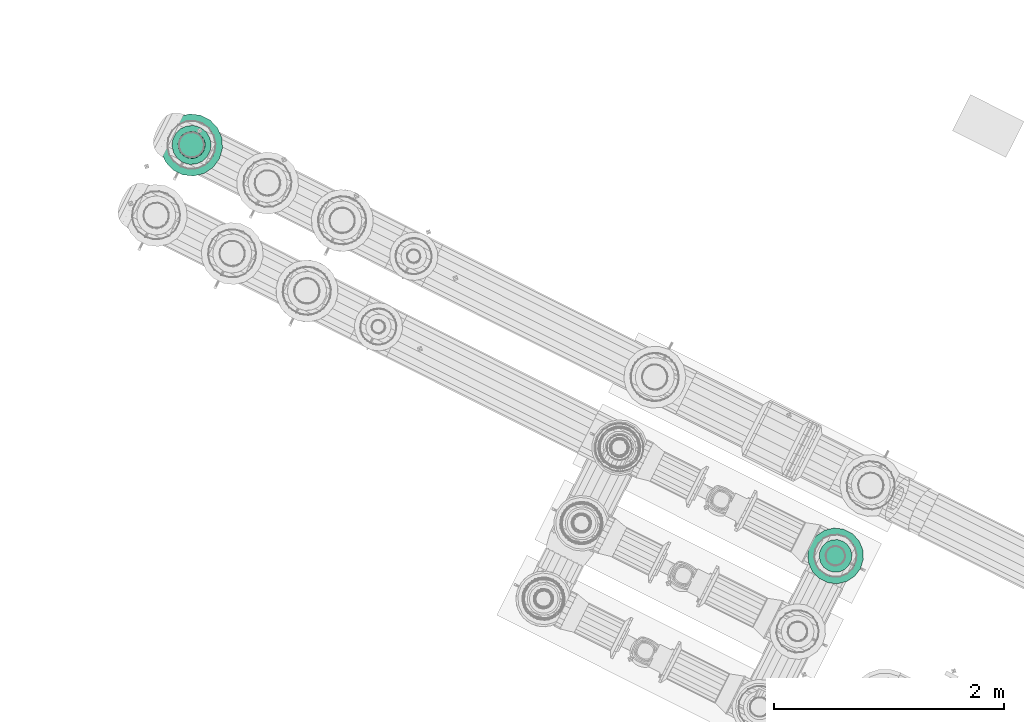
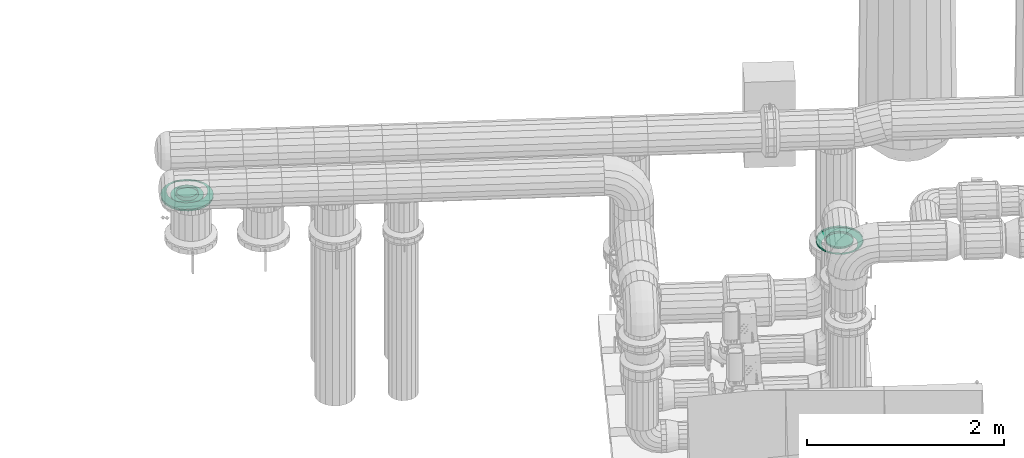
# One storey, part 132 of 152: 2 flow fittings.
"""IFC2X3 building model written with IfcOpenShell, lengths in metres."""

import ifcopenshell
import ifcopenshell.guid

model = None  # the IFC model being written
_history = None  # IfcOwnerHistory: only IFC2X3 demands one
_inside = {}  # id of a spatial element -> (the spatial element, [elements in it])
_under = {}  # id of a project, library or spatial element -> (it, [spatial elements below it])
_declared = {}  # id of a project -> (the project, [libraries it declares])
_typed = {}  # id of a type object -> (the type object, [elements of that type])
_made_of = {}  # id of a material, layer set ... -> (it, [elements and type objects made of it])


def new_model(schema):
    """Start an empty IFC model of exactly this schema.

    Asked for "IFC4X3", IfcOpenShell would pick the latest addendum, in which some entities
    have other attributes; the version numbers below select the first issue.
    IFC2X3 requires an IfcOwnerHistory on every rooted entity: one is made here for all.
    """
    global model, _history
    if schema == "IFC4X3":
        model = ifcopenshell.file(schema_version=(4, 3, 0, 0))
    else:
        model = ifcopenshell.file(schema=schema)
    _inside.clear()
    _under.clear()
    _declared.clear()
    _typed.clear()
    _made_of.clear()
    _history = None
    if model.schema == "IFC2X3":
        org = make("IfcOrganization", Name="unknown")
        user = make(
            "IfcPersonAndOrganization",
            ThePerson=make("IfcPerson", FamilyName="unknown"),
            TheOrganization=org,
        )
        app = make(
            "IfcApplication",
            ApplicationDeveloper=org,
            Version="unknown",
            ApplicationFullName="unknown",
            ApplicationIdentifier="unknown",
        )
        _history = make(
            "IfcOwnerHistory",
            OwningUser=user,
            OwningApplication=app,
            ChangeAction="ADDED",
            CreationDate=0,
        )
    return model


def make(cls, **values):
    """One entity of the class cls with the attributes given. An attribute that is None is left unset."""
    return model.create_entity(
        cls, **{name: value for name, value in values.items() if value is not None}
    )


def rooted(cls, **values):
    """An entity with a GlobalId (a new one), such as an element, a storey or a relation."""
    return make(cls, GlobalId=ifcopenshell.guid.new(), OwnerHistory=_history, **values)


def si_unit(unit_type, name, prefix=None):
    """IfcSIUnit, for example si_unit("LENGTHUNIT", "METRE", prefix="MILLI")."""
    return make("IfcSIUnit", UnitType=unit_type, Prefix=prefix, Name=name)


def derived_unit(unit_type, elements):
    """IfcDerivedUnit: a product of units, each with its exponent."""
    return make(
        "IfcDerivedUnit",
        Elements=[
            make("IfcDerivedUnitElement", Unit=unit, Exponent=power)
            for unit, power in elements
        ],
        UnitType=unit_type,
    )


def assignment(units):
    """IfcUnitAssignment: the units of a project."""
    return None if units is None else make("IfcUnitAssignment", Units=units)


def point(xyz):
    """IfcCartesianPoint."""
    return None if xyz is None else make("IfcCartesianPoint", Coordinates=xyz)


def direction(xyz):
    """IfcDirection."""
    return None if xyz is None else make("IfcDirection", DirectionRatios=xyz)


def frame(location, z_axis=None, x_axis=None):
    """IfcAxis2Placement3D, a coordinate frame: its origin and axes. An axis left out is left unset."""
    return make(
        "IfcAxis2Placement3D",
        Location=point(location),
        Axis=direction(z_axis),
        RefDirection=direction(x_axis),
    )


def origin():
    """The frame at (0, 0, 0) with its axes left unset."""
    return frame((0.0, 0.0, 0.0))


def place(relative_to, where):
    """IfcLocalPlacement: puts the frame where relative to a parent placement (None: the world)."""
    return make(
        "IfcLocalPlacement", PlacementRelTo=relative_to, RelativePlacement=where
    )


def context(
    kind, dimensions, precision=None, world=None, true_north=None, identifier=None
):
    """IfcGeometricRepresentationContext, for example the 3D "Model" context."""
    return make(
        "IfcGeometricRepresentationContext",
        ContextIdentifier=identifier,
        ContextType=kind,
        CoordinateSpaceDimension=dimensions,
        Precision=precision,
        WorldCoordinateSystem=world,
        TrueNorth=true_north,
    )


def subcontext(parent, identifier, kind, view, scale=None):
    """IfcGeometricRepresentationSubContext, for example "Body" below "Model"."""
    return make(
        "IfcGeometricRepresentationSubContext",
        ContextIdentifier=identifier,
        ContextType=kind,
        ParentContext=parent,
        TargetScale=scale,
        TargetView=view,
    )


def project(units=None, contexts=None):
    """IfcProject with its units and contexts."""
    return rooted(
        "IfcProject",
        Name="project",
        RepresentationContexts=contexts,
        UnitsInContext=assignment(units),
    )


def spatial(cls, under=None, at=None, **own):
    """A site, building, storey or space (cls), placed at a placement, below another one or the project."""
    s = rooted(cls, ObjectPlacement=at, **own)
    if under is not None:
        _under.setdefault(under.id(), (under, []))[1].append(s)
    return s


def faces_of(points, faces, orient=None, outer=None):
    """IfcFace entities. A face is a list of loops; a loop is a list of indices into points, from 0.

    orient and outer hold one flag for each loop. By default every Orientation is true, the
    first loop of a face is its IfcFaceOuterBound and the others are IfcFaceBound.
    """
    made = []
    for i, loops in enumerate(faces):
        bounds = []
        for j, loop in enumerate(loops):
            is_outer = j == 0 if outer is None else outer[i][j]
            bounds.append(
                make(
                    "IfcFaceOuterBound" if is_outer else "IfcFaceBound",
                    Bound=make("IfcPolyLoop", Polygon=[points[k] for k in loop]),
                    Orientation=True if orient is None else orient[i][j],
                )
            )
        made.append(make("IfcFace", Bounds=bounds))
    return made


def face_set(faces, orient=None, outer=None):
    """The faces of one IfcConnectedFaceSet. surface_model builds it on its shared points."""
    return ("IfcConnectedFaceSet", faces, orient, outer)


def surface_model(cls, points, shells):
    """IfcFaceBasedSurfaceModel or IfcShellBasedSurfaceModel (cls): surfaces that need not close."""
    shared = [point(p) for p in points]
    made = [make(c, CfsFaces=faces_of(shared, fs, o, b)) for c, fs, o, b in shells]
    if cls == "IfcFaceBasedSurfaceModel":
        return make(cls, FbsmFaces=made)
    return make(cls, SbsmBoundary=made)


def shape(context_of_items, identifier, shape_type, items):
    """IfcShapeRepresentation: the items that make up one representation, for example the "Body"."""
    return make(
        "IfcShapeRepresentation",
        ContextOfItems=context_of_items,
        RepresentationIdentifier=identifier,
        RepresentationType=shape_type,
        Items=items,
    )


def source(mapping_origin, context_of_items, identifier, shape_type, items):
    """IfcRepresentationMap: a shape defined once, which mapped items show again and again."""
    return make(
        "IfcRepresentationMap",
        MappingOrigin=mapping_origin,
        MappedRepresentation=shape(context_of_items, identifier, shape_type, items),
    )


def transform(
    local_origin,
    x_axis=None,
    y_axis=None,
    z_axis=None,
    scale=None,
    scale2=None,
    scale3=None,
    uniform=True,
):
    """IfcCartesianTransformationOperator3D, or its non-uniform kind. x_axis, y_axis, z_axis: its Axis1, 2, 3."""
    if uniform:
        return make(
            "IfcCartesianTransformationOperator3D",
            Axis1=direction(x_axis),
            Axis2=direction(y_axis),
            LocalOrigin=point(local_origin),
            Scale=scale,
            Axis3=direction(z_axis),
        )
    return make(
        "IfcCartesianTransformationOperator3DnonUniform",
        Axis1=direction(x_axis),
        Axis2=direction(y_axis),
        LocalOrigin=point(local_origin),
        Scale=scale,
        Axis3=direction(z_axis),
        Scale2=scale2,
        Scale3=scale3,
    )


def mapped(mapping_source, mapping_target):
    """IfcMappedItem: shows the shape of a source again, moved by a transform."""
    return make(
        "IfcMappedItem", MappingSource=mapping_source, MappingTarget=mapping_target
    )


def material(Name=None, Category=None):
    """IfcMaterial."""
    return make("IfcMaterial", Name=Name, Category=Category)


def made_of(thing, what):
    """Note that an element or type object is made of a material, layer set ...; save() writes the relation."""
    if what is not None:
        _made_of.setdefault(what.id(), (what, []))[1].append(thing)
    return thing


def type_object(cls, material=None, **own):
    """A type object (cls), such as IfcWallType, which elements share."""
    return made_of(rooted(cls, **own), material)


def type_shapes(of_type, sources):
    """Give a type object the sources (RepresentationMaps) that its elements show as mapped items."""
    of_type.RepresentationMaps = sources


def element(
    cls,
    number,
    at=None,
    inside=None,
    cuts=None,
    type_object=None,
    material=None,
    context=None,
    identifier="Body",
    shape_type=None,
    held_by="IfcProductDefinitionShape",
    body=None,
    shapes=None,
    **own,
):
    """One element of the class cls, such as IfcWall. Its Tag is "e" and its number.

    at: its placement. inside: the storey or other place that contains it. cuts: it is an
    opening in that element (IfcRelVoidsElement). A single representation is given by context,
    identifier, shape_type and body (its items); several are given by shapes. held_by: the class
    of the entity that holds the representations. save() writes the other relations.
    """
    e = rooted(cls, Tag="e%d" % number, ObjectPlacement=at, **own)
    if body is not None:
        shapes = [shape(context, identifier, shape_type, body)]
    if shapes is not None:
        e.Representation = make(held_by, Representations=shapes)
    if inside is not None:
        _inside.setdefault(inside.id(), (inside, []))[1].append(e)
    if cuts is not None:
        rooted(
            "IfcRelVoidsElement", RelatingBuildingElement=cuts, RelatedOpeningElement=e
        )
    if type_object is not None:
        _typed.setdefault(type_object.id(), (type_object, []))[1].append(e)
    return made_of(e, material)


def aggregate(whole, parts):
    """IfcRelAggregates: a whole, such as a stair, and the parts it consists of."""
    return rooted("IfcRelAggregates", RelatingObject=whole, RelatedObjects=parts)


def save(model, path):
    """Write the relations noted so far, then the file.

    IfcRelAggregates (storeys below a building ...), IfcRelContainedInSpatialStructure (elements
    in a storey), IfcRelDefinesByType, IfcRelAssociatesMaterial and IfcRelDeclares: one each for
    every whole, place, type object, material and project.
    """
    for whole, parts in _under.values():
        aggregate(whole, parts)
    for where, things in _inside.values():
        rooted(
            "IfcRelContainedInSpatialStructure",
            RelatedElements=things,
            RelatingStructure=where,
        )
    for kind, things in _typed.values():
        rooted("IfcRelDefinesByType", RelatedObjects=things, RelatingType=kind)
    for what, things in _made_of.values():
        rooted("IfcRelAssociatesMaterial", RelatedObjects=things, RelatingMaterial=what)
    for by, libraries in _declared.values():
        rooted("IfcRelDeclares", RelatingContext=by, RelatedDefinitions=libraries)
    model.write(path)


model = new_model("IFC2X3")

# Units and contexts
model_context = context("Model", 3, precision=5.2338327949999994e-05, world=origin(), true_north=direction((0.0, 1.0)))
body_context = subcontext(model_context, "Body", "Model", "MODEL_VIEW")
ifc_project = project(units=[si_unit("LENGTHUNIT", "METRE"), si_unit("AREAUNIT", "SQUARE_METRE"), si_unit("VOLUMEUNIT", "CUBIC_METRE"), si_unit("MASSUNIT", "GRAM", prefix="KILO"), si_unit("PLANEANGLEUNIT", "RADIAN"), derived_unit("THERMALTRANSMITTANCEUNIT", [(si_unit("MASSUNIT", "GRAM", prefix="KILO"), 1), (si_unit("THERMODYNAMICTEMPERATUREUNIT", "KELVIN"), -1), (si_unit("TIMEUNIT", "SECOND"), -3)])], contexts=[model_context])

# Site, building, storey
site_placement = place(None, frame((0.0, 0.0, 0.0), z_axis=(0.0, 0.0, 1.0), x_axis=(0.8939966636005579, -0.4480736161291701, 0.0)))
site = spatial("IfcSite", under=ifc_project, at=site_placement, Name="Default", CompositionType="ELEMENT")
building_placement = place(site_placement, origin())
building = spatial("IfcBuilding", under=site, at=building_placement, CompositionType="ELEMENT")
storey_placement = place(building_placement, frame((0.0, 0.0, 2.7499999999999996)))
storey = spatial("IfcBuildingStorey", under=building, at=storey_placement, Name="1. Obergeschoss", CompositionType="ELEMENT", Elevation=2.7499999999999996)

# Flow fittings
ifc_material_1 = material(Name="IfcSurfaceStyle #9317")
distribution_element_type_1 = type_object("IfcDistributionElementType", Name="Flansch 221471:Flansch 221471", material=ifc_material_1)
shared_shape_1 = source(origin(), body_context, "Body", "SurfaceModel", [
    surface_model("IfcFaceBasedSurfaceModel", [(11.725814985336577, 7.4697083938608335, 4.662303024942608), (11.774552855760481, 7.461114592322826, 4.662303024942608), (11.774552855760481, 7.461114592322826, 4.6403030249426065), (11.725814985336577, 7.4697083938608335, 4.6403030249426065), (11.817412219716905, 7.436369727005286, 4.662303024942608), (11.817412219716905, 7.436369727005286, 4.6403030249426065), (11.84922360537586, 7.398458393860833, 4.662303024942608), (11.84922360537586, 7.398458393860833, 4.6403030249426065), (11.866150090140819, 7.351953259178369, 4.662303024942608), (11.866150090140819, 7.351953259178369, 4.6403030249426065), (11.866150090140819, 7.302463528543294, 4.662303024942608), (11.866150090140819, 7.302463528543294, 4.6403030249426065), (11.849223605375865, 7.25595839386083, 4.662303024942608), (11.849223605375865, 7.25595839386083, 4.6403030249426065), (11.817412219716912, 7.218047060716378, 4.662303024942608), (11.817412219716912, 7.218047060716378, 4.6403030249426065), (11.774552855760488, 7.19330219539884, 4.662303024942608), (11.774552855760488, 7.19330219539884, 4.6403030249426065), (11.72581498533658, 7.1847083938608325, 4.662303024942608), (11.72581498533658, 7.1847083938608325, 4.6403030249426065), (11.677077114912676, 7.19330219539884, 4.662303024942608), (11.677077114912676, 7.19330219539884, 4.6403030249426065), (11.63421775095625, 7.218047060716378, 4.662303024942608), (11.63421775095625, 7.218047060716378, 4.6403030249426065), (11.602406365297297, 7.2559583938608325, 4.662303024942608), (11.602406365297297, 7.2559583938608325, 4.6403030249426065), (11.585479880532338, 7.302463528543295, 4.662303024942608), (11.585479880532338, 7.302463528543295, 4.6403030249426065), (11.585479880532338, 7.351953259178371, 4.662303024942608), (11.585479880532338, 7.351953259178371, 4.6403030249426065), (11.602406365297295, 7.3984583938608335, 4.662303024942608), (11.602406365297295, 7.3984583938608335, 4.6403030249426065), (11.634217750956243, 7.436369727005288, 4.662303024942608), (11.634217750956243, 7.436369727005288, 4.6403030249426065), (11.677077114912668, 7.461114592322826, 4.662303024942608), (11.677077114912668, 7.461114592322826, 4.6403030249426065), (11.725814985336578, 7.327208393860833, 4.6403030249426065), (11.817814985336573, 7.327208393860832, 4.640303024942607), (11.812266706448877, 7.295742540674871, 4.640303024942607), (11.804890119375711, 7.2984273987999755, 4.607303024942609), (11.80996498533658, 7.327208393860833, 4.607303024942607), (11.796291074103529, 7.26807193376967, 4.6403030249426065), (11.790277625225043, 7.2731178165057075, 4.607303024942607), (11.77181498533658, 7.247534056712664, 4.6403030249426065), (11.76788998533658, 7.25433235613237, 4.607303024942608), (11.741790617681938, 7.236606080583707, 4.6403030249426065), (11.740427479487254, 7.244336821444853, 4.607303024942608), (11.709839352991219, 7.236606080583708, 4.6403030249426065), (11.711202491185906, 7.244336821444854, 4.607303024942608), (11.679814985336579, 7.247534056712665, 4.6403030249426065), (11.68373998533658, 7.254332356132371, 4.607303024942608), (11.655338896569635, 7.268071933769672, 4.640303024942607), (11.661352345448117, 7.27311781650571, 4.607303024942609), (11.639363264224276, 7.295742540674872, 4.640303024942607), (11.646739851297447, 7.298427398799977, 4.607303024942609), (11.63381498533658, 7.3272083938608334, 4.6403030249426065), (11.641664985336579, 7.327208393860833, 4.607303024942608), (11.639363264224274, 7.358674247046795, 4.6403030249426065), (11.646739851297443, 7.355989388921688, 4.607303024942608), (11.655338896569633, 7.3863448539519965, 4.6403030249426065), (11.661352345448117, 7.381298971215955, 4.607303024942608), (11.679814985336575, 7.406882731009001, 4.6403030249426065), (11.683739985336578, 7.400084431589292, 4.607303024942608), (11.709839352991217, 7.417810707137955, 4.6403030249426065), (11.711202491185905, 7.410079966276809, 4.607303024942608), (11.741790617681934, 7.417810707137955, 4.6403030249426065), (11.740427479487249, 7.410079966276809, 4.607303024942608), (11.77181498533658, 7.406882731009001, 4.6403030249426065), (11.767889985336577, 7.40008443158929, 4.607303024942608), (11.796291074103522, 7.386344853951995, 4.6403030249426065), (11.790277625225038, 7.381298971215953, 4.607303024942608), (11.812266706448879, 7.358674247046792, 4.6403030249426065), (11.804890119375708, 7.355989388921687, 4.607303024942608), (11.725814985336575, 7.569708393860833, 4.662303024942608), (11.808754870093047, 7.555083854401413, 4.662303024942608), (11.808754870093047, 7.555083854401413, 4.6403030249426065), (11.725814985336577, 7.569708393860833, 4.6403030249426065), (11.88169098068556, 7.5129741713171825, 4.662303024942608), (11.88169098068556, 7.5129741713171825, 4.6403030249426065), (11.9358261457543, 7.448458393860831, 4.662303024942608), (11.9358261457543, 7.448458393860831, 4.6403030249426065), (11.964630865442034, 7.3693180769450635, 4.662303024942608), (11.964630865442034, 7.3693180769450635, 4.6403030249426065), (11.964630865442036, 7.2850987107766, 4.662303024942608), (11.964630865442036, 7.2850987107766, 4.6403030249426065), (11.935826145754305, 7.205958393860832, 4.662303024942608), (11.935826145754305, 7.205958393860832, 4.6403030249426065), (11.881690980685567, 7.141442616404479, 4.662303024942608), (11.881690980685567, 7.141442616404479, 4.6403030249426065), (11.808754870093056, 7.0993329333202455, 4.662303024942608), (11.808754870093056, 7.0993329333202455, 4.6403030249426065), (11.72581498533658, 7.084708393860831, 4.662303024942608), (11.72581498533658, 7.084708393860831, 4.6403030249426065), (11.64287510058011, 7.099332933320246, 4.662303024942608), (11.64287510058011, 7.099332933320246, 4.6403030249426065), (11.569938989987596, 7.14144261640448, 4.662303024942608), (11.569938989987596, 7.14144261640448, 4.6403030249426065), (11.515803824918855, 7.205958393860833, 4.662303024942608), (11.515803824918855, 7.205958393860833, 4.6403030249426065), (11.48699910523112, 7.2850987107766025, 4.662303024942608), (11.48699910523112, 7.2850987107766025, 4.6403030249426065), (11.486999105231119, 7.369318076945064, 4.662303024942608), (11.486999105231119, 7.369318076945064, 4.6403030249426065), (11.515803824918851, 7.448458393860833, 4.662303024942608), (11.515803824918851, 7.448458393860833, 4.6403030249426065), (11.569938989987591, 7.512974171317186, 4.662303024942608), (11.569938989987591, 7.512974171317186, 4.6403030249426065), (11.6428751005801, 7.555083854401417, 4.662303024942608), (11.6428751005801, 7.555083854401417, 4.6403030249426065), (11.968314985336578, 7.32720839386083, 4.6403030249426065), (11.953690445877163, 7.244268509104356, 4.6403030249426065), (11.8988593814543, 7.264225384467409, 4.607303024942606), (11.909964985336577, 7.327208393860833, 4.607303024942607), (11.911580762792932, 7.171332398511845, 4.640303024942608), (11.86688206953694, 7.208839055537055, 4.607303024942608), (11.847064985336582, 7.117197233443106, 4.640303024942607), (11.817889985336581, 7.167729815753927, 4.607303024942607), (11.767924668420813, 7.08839251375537, 4.6403030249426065), (11.757792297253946, 7.145856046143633, 4.607303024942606), (11.683705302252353, 7.0883925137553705, 4.6403030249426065), (11.693837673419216, 7.145856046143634, 4.607303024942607), (11.604564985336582, 7.117197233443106, 4.6403030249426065), (11.63373998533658, 7.167729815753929, 4.607303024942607), (11.54004920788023, 7.171332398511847, 4.6403030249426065), (11.58474790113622, 7.208839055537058, 4.607303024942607), (11.497939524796, 7.244268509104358, 4.6403030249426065), (11.552770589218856, 7.264225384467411, 4.607303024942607), (11.48331498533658, 7.3272083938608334, 4.640303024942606), (11.54166498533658, 7.3272083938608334, 4.607303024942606), (11.497939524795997, 7.4101482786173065, 4.6403030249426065), (11.552770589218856, 7.390191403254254, 4.607303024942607), (11.540049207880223, 7.48308438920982, 4.640303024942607), (11.584747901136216, 7.445577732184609, 4.607303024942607), (11.604564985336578, 7.537219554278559, 4.6403030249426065), (11.633739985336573, 7.486686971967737, 4.607303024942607), (11.683705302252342, 7.566024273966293, 4.6403030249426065), (11.693837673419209, 7.508560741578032, 4.607303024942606), (11.767924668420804, 7.566024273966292, 4.6403030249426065), (11.757792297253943, 7.508560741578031, 4.607303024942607), (11.847064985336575, 7.5372195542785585, 4.6403030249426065), (11.817889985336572, 7.486686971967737, 4.607303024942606), (11.911580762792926, 7.48308438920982, 4.640303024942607), (11.866882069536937, 7.445577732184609, 4.607303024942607), (11.953690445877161, 7.410148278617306, 4.6403030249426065), (11.8988593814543, 7.390191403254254, 4.607303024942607)], [face_set([[[0, 1, 2, 3]], [[1, 4, 5, 2]], [[4, 6, 7, 5]], [[6, 8, 9, 7]], [[8, 10, 11, 9]], [[10, 12, 13, 11]], [[12, 14, 15, 13]], [[14, 16, 17, 15]], [[16, 18, 19, 17]], [[18, 20, 21, 19]], [[20, 22, 23, 21]], [[22, 24, 25, 23]], [[24, 26, 27, 25]], [[26, 28, 29, 27]], [[28, 30, 31, 29]], [[30, 32, 33, 31]], [[32, 34, 35, 33]], [[34, 0, 3, 35]], [[36, 35, 3]], [[36, 33, 35]], [[36, 31, 33]], [[36, 29, 31]], [[36, 27, 29]], [[36, 25, 27]], [[36, 23, 25]], [[36, 21, 23]], [[36, 19, 21]], [[36, 17, 19]], [[36, 15, 17]], [[36, 13, 15]], [[36, 11, 13]], [[36, 9, 11]], [[36, 7, 9]], [[36, 5, 7]], [[36, 2, 5]], [[36, 3, 2]], [[37, 38, 39, 40]], [[38, 41, 42, 39]], [[41, 43, 44, 42]], [[43, 45, 46, 44]], [[45, 47, 48, 46]], [[47, 49, 50, 48]], [[49, 51, 52, 50]], [[51, 53, 54, 52]], [[53, 55, 56, 54]], [[55, 57, 58, 56]], [[57, 59, 60, 58]], [[59, 61, 62, 60]], [[61, 63, 64, 62]], [[63, 65, 66, 64]], [[65, 67, 68, 66]], [[67, 69, 70, 68]], [[69, 71, 72, 70]], [[71, 37, 40, 72]], [[73, 74, 75, 76]], [[74, 77, 78, 75]], [[77, 79, 80, 78]], [[79, 81, 82, 80]], [[81, 83, 84, 82]], [[83, 85, 86, 84]], [[85, 87, 88, 86]], [[87, 89, 90, 88]], [[89, 91, 92, 90]], [[91, 93, 94, 92]], [[93, 95, 96, 94]], [[95, 97, 98, 96]], [[97, 99, 100, 98]], [[99, 101, 102, 100]], [[101, 103, 104, 102]], [[103, 105, 106, 104]], [[105, 107, 108, 106]], [[107, 73, 76, 108]], [[109, 110, 111, 112]], [[110, 113, 114, 111]], [[113, 115, 116, 114]], [[115, 117, 118, 116]], [[117, 119, 120, 118]], [[119, 121, 122, 120]], [[121, 123, 124, 122]], [[123, 125, 126, 124]], [[125, 127, 128, 126]], [[127, 129, 130, 128]], [[129, 131, 132, 130]], [[131, 133, 134, 132]], [[133, 135, 136, 134]], [[135, 137, 138, 136]], [[137, 139, 140, 138]], [[139, 141, 142, 140]], [[141, 143, 144, 142]], [[143, 109, 112, 144]]])]),
])
type_shapes(distribution_element_type_1, [shared_shape_1])
flow_fitting_1_placement = place(storey_placement, frame((0.0, 0.0, -2.7499999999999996)))
element("IfcFlowFitting", 1, at=flow_fitting_1_placement, inside=storey, type_object=distribution_element_type_1, material=ifc_material_1, Name="Flansch", ObjectType="Flansch", context=body_context, shape_type="MappedRepresentation", body=[
    mapped(shared_shape_1, transform((0.0, 0.0, 0.0), scale=1.0)),
])
ifc_material_2 = material(Name="IfcSurfaceStyle #1741")
distribution_element_type_2 = type_object("IfcDistributionElementType", Name="Flansch 247455:Flansch 247455", material=ifc_material_2)
shared_shape_2 = source(origin(), body_context, "Body", "SurfaceModel", [
    surface_model("IfcFaceBasedSurfaceModel", [(5.013216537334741, 8.012208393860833, 5.052622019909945), (5.019823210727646, 8.049676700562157, 5.052622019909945), (5.012352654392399, 8.052395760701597, 5.0146220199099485), (5.005266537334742, 8.012208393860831, 5.0146220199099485), (5.038846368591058, 8.082625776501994, 5.052622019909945), (5.032756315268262, 8.087735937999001, 5.0146220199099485), (5.067991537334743, 8.107081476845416, 5.052622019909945), (5.0640165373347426, 8.113966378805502, 5.014622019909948), (5.1037433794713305, 8.120094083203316, 5.052622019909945), (5.102362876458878, 8.127923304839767, 5.014622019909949), (5.141789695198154, 8.120094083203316, 5.052622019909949), (5.1431701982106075, 8.127923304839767, 5.0146220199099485), (5.177541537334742, 8.107081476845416, 5.052622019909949), (5.181516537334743, 8.113966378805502, 5.014622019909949), (5.206686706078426, 8.08262577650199, 5.052622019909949), (5.212776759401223, 8.087735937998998, 5.014622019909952), (5.225709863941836, 8.049676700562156, 5.05262201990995), (5.233180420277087, 8.052395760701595, 5.014622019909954), (5.23231653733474, 8.01220839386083, 5.05262201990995), (5.240266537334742, 8.01220839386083, 5.014622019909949), (5.225709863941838, 7.974740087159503, 5.0526220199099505), (5.233180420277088, 7.972021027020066, 5.014622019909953), (5.206686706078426, 7.94179101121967, 5.05262201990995), (5.212776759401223, 7.936680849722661, 5.014622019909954), (5.177541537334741, 7.917335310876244, 5.052622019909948), (5.181516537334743, 7.910450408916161, 5.0146220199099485), (5.141789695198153, 7.904322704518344, 5.052622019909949), (5.143170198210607, 7.896493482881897, 5.014622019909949), (5.103743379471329, 7.904322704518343, 5.052622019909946), (5.102362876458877, 7.896493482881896, 5.014622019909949), (5.067991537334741, 7.917335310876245, 5.052622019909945), (5.064016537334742, 7.910450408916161, 5.0146220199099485), (5.038846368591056, 7.941791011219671, 5.052622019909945), (5.032756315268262, 7.936680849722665, 5.014622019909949), (5.019823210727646, 7.974740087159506, 5.052622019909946), (5.012352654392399, 7.972021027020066, 5.0146220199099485), (5.122766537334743, 8.182208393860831, 5.0146220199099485), (5.180909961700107, 8.171956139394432, 5.01462201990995), (5.180909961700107, 8.171956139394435, 4.990622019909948), (5.122766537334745, 8.182208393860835, 4.990622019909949), (5.2320404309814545, 8.142435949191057, 5.01462201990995), (5.232040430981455, 8.142435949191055, 4.990622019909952), (5.269990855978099, 8.09720839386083, 5.014622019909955), (5.269990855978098, 8.09720839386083, 4.990622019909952), (5.290183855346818, 8.041728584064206, 5.014622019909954), (5.290183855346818, 8.041728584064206, 4.990622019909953), (5.290183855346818, 7.982688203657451, 5.014622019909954), (5.290183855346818, 7.982688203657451, 4.990622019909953), (5.269990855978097, 7.927208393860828, 5.014622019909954), (5.269990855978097, 7.927208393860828, 4.990622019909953), (5.232040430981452, 7.881980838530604, 5.014622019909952), (5.232040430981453, 7.881980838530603, 4.990622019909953), (5.180909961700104, 7.8524606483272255, 5.01462201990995), (5.180909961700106, 7.8524606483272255, 4.990622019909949), (5.122766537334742, 7.842208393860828, 5.0146220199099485), (5.122766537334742, 7.8422083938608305, 4.990622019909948), (5.064623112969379, 7.8524606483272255, 5.0146220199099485), (5.064623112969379, 7.8524606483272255, 4.990622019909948), (5.013492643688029, 7.881980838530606, 5.0146220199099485), (5.013492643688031, 7.881980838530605, 4.9906220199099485), (4.9755422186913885, 7.927208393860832, 5.0146220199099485), (4.9755422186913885, 7.927208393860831, 4.990622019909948), (4.955349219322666, 7.982688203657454, 5.014622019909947), (4.955349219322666, 7.982688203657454, 4.990622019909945), (4.955349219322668, 8.041728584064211, 5.014622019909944), (4.955349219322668, 8.041728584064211, 4.990622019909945), (4.9755422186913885, 8.097208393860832, 5.0146220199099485), (4.9755422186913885, 8.097208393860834, 4.990622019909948), (5.013492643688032, 8.14243594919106, 5.0146220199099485), (5.013492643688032, 8.14243594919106, 4.990622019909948), (5.064623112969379, 8.171956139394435, 5.0146220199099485), (5.064623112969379, 8.171956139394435, 4.990622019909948), (5.122766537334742, 8.012208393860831, 5.014622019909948), (4.913216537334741, 8.012208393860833, 5.052622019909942), (4.9258539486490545, 8.083878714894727, 5.052622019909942), (4.869049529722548, 8.104553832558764, 5.014622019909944), (4.852766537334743, 8.012208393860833, 5.014622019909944), (4.962241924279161, 8.146904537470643, 5.052622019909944), (4.91593453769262, 8.185761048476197, 5.014622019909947), (5.017991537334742, 8.193684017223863, 5.052622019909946), (4.987766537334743, 8.246035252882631, 5.014622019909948), (5.086378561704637, 8.218574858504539, 5.052622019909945), (5.075881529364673, 8.278106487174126, 5.0146220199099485), (5.159154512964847, 8.218574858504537, 5.05262201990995), (5.169651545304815, 8.278106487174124, 5.01462201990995), (5.227541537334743, 8.19368401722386, 5.052622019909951), (5.257766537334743, 8.246035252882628, 5.014622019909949), (5.283291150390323, 8.146904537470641, 5.052622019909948), (5.329598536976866, 8.185761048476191, 5.014622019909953), (5.3196791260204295, 8.083878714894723, 5.052622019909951), (5.376483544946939, 8.104553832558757, 5.014622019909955), (5.332316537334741, 8.01220839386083, 5.0526220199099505), (5.392766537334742, 8.012208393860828, 5.014622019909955), (5.319679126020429, 7.940538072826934, 5.0526220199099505), (5.376483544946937, 7.919862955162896, 5.014622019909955), (5.283291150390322, 7.877512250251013, 5.052622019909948), (5.329598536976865, 7.8386557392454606, 5.014622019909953), (5.227541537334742, 7.830732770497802, 5.052622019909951), (5.257766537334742, 7.7783815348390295, 5.014622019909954), (5.159154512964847, 7.805841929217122, 5.0526220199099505), (5.169651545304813, 7.746310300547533, 5.014622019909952), (5.086378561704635, 7.805841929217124, 5.052622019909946), (5.075881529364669, 7.746310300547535, 5.014622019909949), (5.0179915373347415, 7.8307327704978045, 5.052622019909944), (4.987766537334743, 7.778381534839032, 5.014622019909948), (4.9622419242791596, 7.877512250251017, 5.052622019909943), (4.915934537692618, 7.838655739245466, 5.014622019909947), (4.925853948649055, 7.940538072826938, 5.052622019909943), (4.869049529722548, 7.919862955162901, 5.014622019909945), (5.122766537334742, 8.28220839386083, 5.0146220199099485), (5.2151119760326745, 8.265925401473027, 5.01462201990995), (5.2151119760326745, 8.265925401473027, 4.990622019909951), (5.122766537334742, 8.282208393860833, 4.990622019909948), (5.296319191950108, 8.219040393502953, 5.01462201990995), (5.296319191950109, 8.219040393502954, 4.990622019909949), (5.3565933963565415, 8.147208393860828, 5.014622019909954), (5.3565933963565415, 8.14720839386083, 4.990622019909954), (5.388664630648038, 8.059093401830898, 5.014622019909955), (5.388664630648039, 8.059093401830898, 4.990622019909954), (5.388664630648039, 7.965323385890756, 5.014622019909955), (5.38866463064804, 7.965323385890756, 4.9906220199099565), (5.3565933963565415, 7.877208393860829, 5.014622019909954), (5.3565933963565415, 7.877208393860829, 4.990622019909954), (5.296319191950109, 7.805376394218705, 5.014622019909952), (5.296319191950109, 7.805376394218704, 4.990622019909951), (5.215111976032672, 7.758491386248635, 5.014622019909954), (5.215111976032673, 7.758491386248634, 4.990622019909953), (5.1227665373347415, 7.74220839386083, 5.014622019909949), (5.122766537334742, 7.74220839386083, 4.9906220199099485), (5.030421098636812, 7.758491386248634, 5.014622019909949), (5.030421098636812, 7.758491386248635, 4.9906220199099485), (4.949213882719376, 7.805376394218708, 5.014622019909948), (4.949213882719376, 7.805376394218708, 4.990622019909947), (4.888939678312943, 7.8772083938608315, 5.014622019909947), (4.888939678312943, 7.877208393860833, 4.990622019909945), (4.856868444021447, 7.965323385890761, 5.014622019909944), (4.856868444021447, 7.965323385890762, 4.990622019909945), (4.856868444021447, 8.059093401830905, 5.014622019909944), (4.856868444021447, 8.059093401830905, 4.990622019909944), (4.888939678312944, 8.147208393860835, 5.014622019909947), (4.888939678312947, 8.147208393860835, 4.990622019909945), (4.949213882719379, 8.219040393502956, 5.014622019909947), (4.94921388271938, 8.219040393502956, 4.990622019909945), (5.030421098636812, 8.265925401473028, 5.0146220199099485), (5.030421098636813, 8.265925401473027, 4.990622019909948)], [face_set([[[0, 1, 2, 3]], [[1, 4, 5, 2]], [[4, 6, 7, 5]], [[6, 8, 9, 7]], [[8, 10, 11, 9]], [[10, 12, 13, 11]], [[12, 14, 15, 13]], [[14, 16, 17, 15]], [[16, 18, 19, 17]], [[18, 20, 21, 19]], [[20, 22, 23, 21]], [[22, 24, 25, 23]], [[24, 26, 27, 25]], [[26, 28, 29, 27]], [[28, 30, 31, 29]], [[30, 32, 33, 31]], [[32, 34, 35, 33]], [[34, 0, 3, 35]], [[36, 37, 38, 39]], [[37, 40, 41, 38]], [[40, 42, 43, 41]], [[42, 44, 45, 43]], [[44, 46, 47, 45]], [[46, 48, 49, 47]], [[48, 50, 51, 49]], [[50, 52, 53, 51]], [[52, 54, 55, 53]], [[54, 56, 57, 55]], [[56, 58, 59, 57]], [[58, 60, 61, 59]], [[60, 62, 63, 61]], [[62, 64, 65, 63]], [[64, 66, 67, 65]], [[66, 68, 69, 67]], [[68, 70, 71, 69]], [[70, 36, 39, 71]], [[72, 37, 36]], [[72, 40, 37]], [[72, 42, 40]], [[72, 44, 42]], [[72, 46, 44]], [[72, 48, 46]], [[72, 50, 48]], [[72, 52, 50]], [[72, 54, 52]], [[72, 56, 54]], [[72, 58, 56]], [[72, 60, 58]], [[72, 62, 60]], [[72, 64, 62]], [[72, 66, 64]], [[72, 68, 66]], [[72, 70, 68]], [[72, 36, 70]], [[73, 74, 75, 76]], [[74, 77, 78, 75]], [[77, 79, 80, 78]], [[79, 81, 82, 80]], [[81, 83, 84, 82]], [[83, 85, 86, 84]], [[85, 87, 88, 86]], [[87, 89, 90, 88]], [[89, 91, 92, 90]], [[91, 93, 94, 92]], [[93, 95, 96, 94]], [[95, 97, 98, 96]], [[97, 99, 100, 98]], [[99, 101, 102, 100]], [[101, 103, 104, 102]], [[103, 105, 106, 104]], [[105, 107, 108, 106]], [[107, 73, 76, 108]], [[109, 110, 111, 112]], [[110, 113, 114, 111]], [[113, 115, 116, 114]], [[115, 117, 118, 116]], [[117, 119, 120, 118]], [[119, 121, 122, 120]], [[121, 123, 124, 122]], [[123, 125, 126, 124]], [[125, 127, 128, 126]], [[127, 129, 130, 128]], [[129, 131, 132, 130]], [[131, 133, 134, 132]], [[133, 135, 136, 134]], [[135, 137, 138, 136]], [[137, 139, 140, 138]], [[139, 141, 142, 140]], [[141, 143, 144, 142]], [[143, 109, 112, 144]]])]),
])
type_shapes(distribution_element_type_2, [shared_shape_2])
flow_fitting_2_placement = place(storey_placement, frame((0.0, 0.0, -2.7499999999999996)))
element("IfcFlowFitting", 2, at=flow_fitting_2_placement, inside=storey, type_object=distribution_element_type_2, material=ifc_material_2, Name="Flansch", ObjectType="Flansch", context=body_context, shape_type="MappedRepresentation", body=[
    mapped(shared_shape_2, transform((0.0, 0.0, 0.0), scale=1.0)),
])

save(model, "model.ifc")
